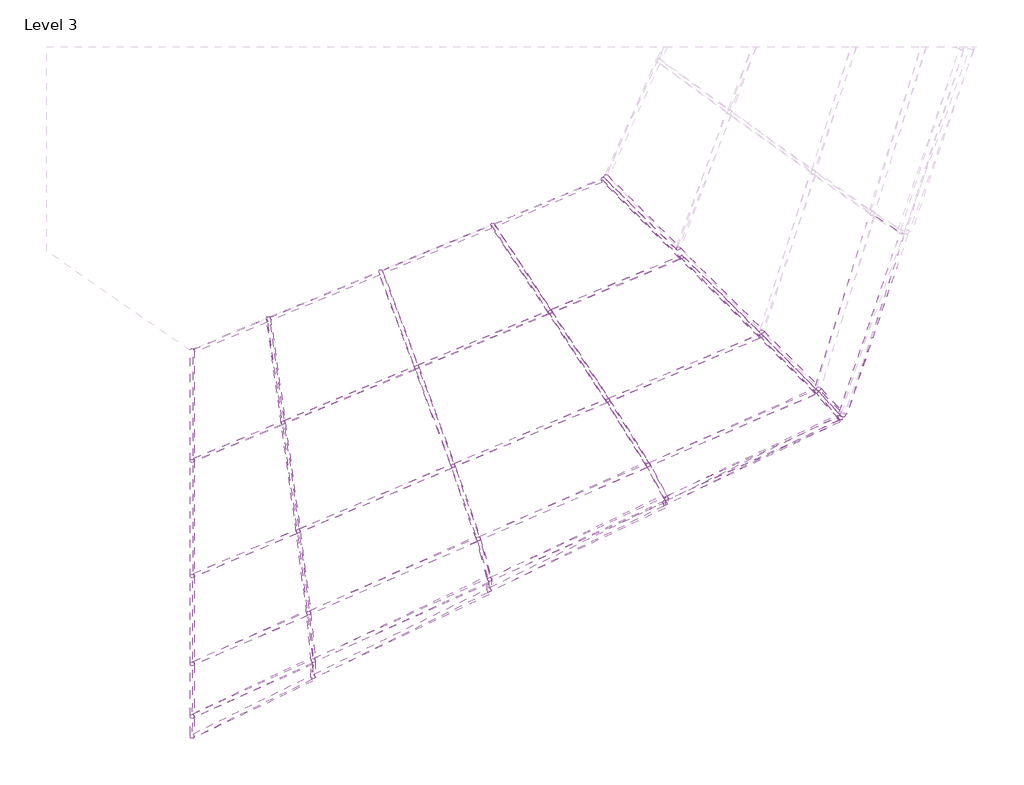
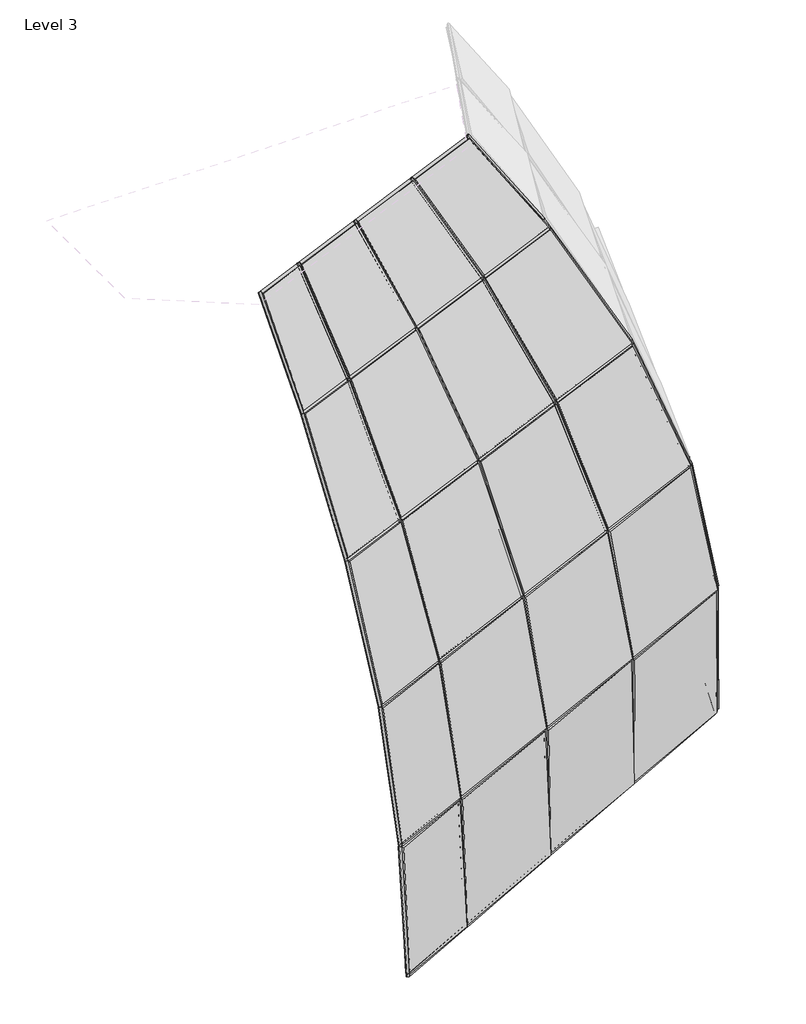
# One storey, part 1 of 2: 54 members, 22 plates.
"""IFC4 building model written with IfcOpenShell, lengths in millimetres."""

from ifc_helpers import new_model, si_unit, origin, place, context, project, spatial, transform, mapped, element, save
from components import member_51609e14, member_550a394c, member_153bd64a, member_1881728f, member_d718a34b, member_c775a8c0, member_529cba33, member_4012dee8, member_df40f607, member_b8b030e0, member_0225935b, member_153dbc30, member_5a8dcc5f, member_750c870f, member_c198bb08, member_25a058d1, member_daf9717a, member_f387274c, member_ab1f9ae6, member_44664120, member_632aa1b8, member_196592cd, member_b69ffe92, member_be079538, member_8f1bf7c9, member_76b62516, member_647eb9a3, member_b3db843a, member_d8d60749, member_e72a07f9, member_21f347eb, member_ffd43734, member_71e1ef4e, member_392e714e, member_e3ef78de, member_4ed57528, member_fef315e6, member_c3c220a6, member_70f3ef59, member_2e2546f8, member_24125101, member_7f8e0041, member_b4dc21fd, member_75c37333, member_c1d8b073, member_82034386, member_3b75e8cd, member_826e21f9, empty_system_panel_empty_9f1aaa04, empty_system_panel_empty_9aa10e1d, empty_system_panel_empty_32c5dcfe, empty_system_panel_empty_7a88da63, empty_system_panel_empty_5c7e0a77, empty_system_panel_empty_cd960515, empty_system_panel_empty_cb121b9c, empty_system_panel_empty_9545f0f2, empty_system_panel_empty_91059b44, empty_system_panel_empty_a0e2cc6e, empty_system_panel_empty_5f52704f, empty_system_panel_empty_acc5f44e, empty_system_panel_empty_cdbc88c9, empty_system_panel_empty_6c8ad9f7, empty_system_panel_empty_86a8a756, empty_system_panel_empty_f392819b, empty_system_panel_empty_272c744b, empty_system_panel_empty_c727257e, empty_system_panel_empty_250252ff, empty_system_panel_empty_4bd17fd3, empty_system_panel_empty_bc907498, empty_system_panel_empty_82868915

model = new_model("IFC4")

# Units and contexts
model_context = context("Model", 3, world=origin())
ifc_project = project(units=[si_unit("LENGTHUNIT", "METRE", prefix="MILLI")], contexts=[model_context])

# Site, building, storey
site = spatial("IfcSite", under=ifc_project)
building = spatial("IfcBuilding", under=site)
storey = spatial("IfcBuildingStorey", under=building, Name="Level 3", Elevation=6096.0)

# Members
placement = place(None, origin())
member_shape = member_51609e14(model_context)
element("IfcMember", 1, ObjectType="Circular Mullion : 2.5\" Circular", at=placement, inside=storey, context=model_context, shape_type="MappedRepresentation", body=[
    mapped(member_shape, transform((178600.8774719, 23302.984107, 22344.3209782), x_axis=(-0.243014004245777, 0.5828116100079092, 0.7754191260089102), y_axis=(0.29842209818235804, -0.7156948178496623, 0.6314468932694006), z_axis=(0.9229780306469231, 0.38485264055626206, 0.0))),
])
member_2_shape = member_550a394c(model_context)
element("IfcMember", 2, ObjectType="Circular Mullion : 2.5\" Circular", at=placement, inside=storey, context=model_context, shape_type="MappedRepresentation", body=[
    mapped(member_2_shape, transform((173376.7160017, 21124.6740392, 22344.3209782), x_axis=(-0.24254999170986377, 0.5816987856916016, 0.7763993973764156), y_axis=(0.29879935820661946, -0.7165995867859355, 0.6302412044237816), z_axis=(0.922978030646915, 0.3848526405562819, 0.0))),
])
member_3_shape = member_153bd64a(model_context)
element("IfcMember", 3, ObjectType="Circular Mullion : 2.5\" Circular", at=placement, inside=storey, context=model_context, shape_type="MappedRepresentation", body=[
    mapped(member_3_shape, transform((175127.8713426, 21854.8504189, 22344.3209782), x_axis=(-0.24268841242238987, 0.5820307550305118, 0.7761072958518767), y_axis=(0.29868694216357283, -0.7163299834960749, 0.6306008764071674), z_axis=(0.9229780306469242, 0.3848526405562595, 0.0))),
])
element("IfcMember", 4, ObjectType="Circular Mullion : 2.5\" Circular", at=placement, inside=storey, context=model_context, shape_type="MappedRepresentation", body=[
    mapped(member_3_shape, transform((176879.0266835, 22585.0267986, 22344.3209782), x_axis=(-0.24285131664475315, 0.5824214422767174, 0.7757631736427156), y_axis=(0.29855450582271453, -0.7160123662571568, 0.6310241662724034), z_axis=(0.9229780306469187, 0.38485264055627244, 0.0))),
])
member_4_shape = member_1881728f(model_context)
element("IfcMember", 5, ObjectType="Circular Mullion : 2.5\" Circular", at=placement, inside=storey, context=model_context, shape_type="MappedRepresentation", body=[
    mapped(member_4_shape, transform((172184.898253, 20627.7237409, 22344.3209782), x_axis=(-0.9544214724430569, -0.22417360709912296, 0.19704275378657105), y_axis=(0.2984621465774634, -0.7168617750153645, 0.6301028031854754), z_axis=(0.0, 0.6601934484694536, 0.7510956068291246))),
])
member_5_shape = member_d718a34b(model_context)
element("IfcMember", 6, ObjectType="Circular Mullion : 2.5\" Circular", at=placement, inside=storey, context=model_context, shape_type="MappedRepresentation", body=[
    mapped(member_5_shape, transform((172184.898253, 14895.2048204, 12024.508293), x_axis=(-0.903383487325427, -0.4265932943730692, 0.04377711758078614), y_axis=(0.4288336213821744, -0.8986640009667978, 0.09222113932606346), z_axis=(0.0, 0.10208415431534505, 0.9947757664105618))),
])
member_6_shape = member_c775a8c0(model_context)
element("IfcMember", 7, ObjectType="Circular Mullion : 2.5\" Circular", at=placement, inside=storey, context=model_context, shape_type="MappedRepresentation", body=[
    mapped(member_6_shape, transform((172184.898253, 15716.8068004, 15003.3897152), x_axis=(-0.9175135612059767, -0.3833894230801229, 0.10574221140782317), y_axis=(0.39770449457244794, -0.8844883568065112, 0.2439497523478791), z_axis=(0.0, 0.2658813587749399, 0.9640057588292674))),
])
member_7_shape = member_529cba33(model_context)
element("IfcMember", 8, ObjectType="Circular Mullion : 2.5\" Circular", at=placement, inside=storey, context=model_context, shape_type="MappedRepresentation", body=[
    mapped(member_7_shape, transform((172184.898253, 17091.7766134, 17804.3273603), x_axis=(-0.9327674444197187, -0.3235916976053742, 0.15884995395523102), y_axis=(0.3604787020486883, -0.8373193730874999, 0.41103694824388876), z_axis=(0.0, 0.44066390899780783, 0.8976721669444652))),
])
member_8_shape = member_4012dee8(model_context)
element("IfcMember", 9, ObjectType="Circular Mullion : 2.5\" Circular", at=placement, inside=storey, context=model_context, shape_type="MappedRepresentation", body=[
    mapped(member_8_shape, transform((172184.898253, 18895.5768678, 20373.6744808), x_axis=(-0.9457642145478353, -0.26587484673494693, 0.18665641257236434), y_axis=(0.32485389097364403, -0.774055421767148, 0.5434226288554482), z_axis=(0.0, 0.5745857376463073, 0.8184443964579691))),
])
member_9_shape = member_df40f607(model_context)
element("IfcMember", 10, ObjectType="Circular Mullion : 2.5\" Circular", at=placement, inside=storey, context=model_context, shape_type="MappedRepresentation", body=[
    mapped(member_9_shape, transform((174074.5566786, 15514.3392105, 8980.3473318), x_axis=(-0.003920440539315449, 0.007952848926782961, 0.9999606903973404), y_axis=(0.44213789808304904, -0.8969032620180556, 0.008866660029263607), z_axis=(0.8969385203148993, 0.44215527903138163, 0.0))),
])
member_10_shape = member_b8b030e0(model_context)
element("IfcMember", 11, ObjectType="Circular Mullion : 2.5\" Circular", at=placement, inside=storey, context=model_context, shape_type="MappedRepresentation", body=[
    mapped(member_10_shape, transform((176825.2676347, 16870.3311127, 8980.3473318), x_axis=(0.009119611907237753, -0.01849968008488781, 0.9997872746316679), y_axis=(0.44206122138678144, -0.8967477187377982, -0.020625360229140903), z_axis=(0.8969385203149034, 0.44215527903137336, 0.0))),
])
element("IfcMember", 12, ObjectType="Circular Mullion : 2.5\" Circular", at=placement, inside=storey, context=model_context, shape_type="MappedRepresentation", body=[
    mapped(member_10_shape, transform((179575.9785908, 18226.3230149, 8980.3473318), x_axis=(0.02213590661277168, -0.04490401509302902, 0.998746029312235), y_axis=(0.4416008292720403, -0.8958137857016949, -0.05006364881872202), z_axis=(0.896938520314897, 0.4421552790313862, 0.0))),
])
member_11_shape = member_0225935b(model_context)
element("IfcMember", 13, ObjectType="Circular Mullion : 2.5\" Circular", at=placement, inside=storey, context=model_context, shape_type="MappedRepresentation", body=[
    mapped(member_11_shape, transform((182298.2117488, 19568.276487, 8980.3473318), x_axis=(0.034961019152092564, -0.07092052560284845, 0.9968691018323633), y_axis=(0.4407709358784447, -0.8941302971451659, -0.07906955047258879), z_axis=(0.8969385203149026, 0.4421552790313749, 0.0))),
])
member_12_shape = member_153dbc30(model_context)
element("IfcMember", 14, ObjectType="Circular Mullion : 2.5\" Circular", at=placement, inside=storey, context=model_context, shape_type="MappedRepresentation", body=[
    mapped(member_12_shape, transform((174078.5767426, 15767.1746051, 12024.508293), x_axis=(-0.06127594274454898, 0.1330744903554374, 0.9892100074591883), y_axis=(0.41374009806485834, -0.8985296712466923, 0.14650447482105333), z_axis=(0.908330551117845, 0.4182530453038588, 0.0))),
])
member_13_shape = member_5a8dcc5f(model_context)
element("IfcMember", 15, ObjectType="Circular Mullion : 2.5\" Circular", at=placement, inside=storey, context=model_context, shape_type="MappedRepresentation", body=[
    mapped(member_13_shape, transform((176835.5713805, 17036.6699466, 12024.508293), x_axis=(-0.05172742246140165, 0.11233773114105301, 0.9923227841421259), y_axis=(0.4150420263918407, -0.9013571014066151, 0.12367494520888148), z_axis=(0.9083305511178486, 0.41825304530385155, 0.0))),
])
element("IfcMember", 16, ObjectType="Circular Mullion : 2.5\" Circular", at=placement, inside=storey, context=model_context, shape_type="MappedRepresentation", body=[
    mapped(member_13_shape, transform((179592.5660184, 18306.1652881, 12024.508293), x_axis=(-0.042096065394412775, 0.09142107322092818, 0.9949221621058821), y_axis=(0.41612922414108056, -0.9037181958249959, 0.10064736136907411), z_axis=(0.9083305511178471, 0.41825304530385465, 0.0))),
])
member_14_shape = member_750c870f(model_context)
element("IfcMember", 17, ObjectType="Circular Mullion : 2.5\" Circular", at=placement, inside=storey, context=model_context, shape_type="MappedRepresentation", body=[
    mapped(member_14_shape, transform((182320.7211613, 19562.3810954, 12024.508293), x_axis=(-0.032498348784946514, 0.0705774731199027, 0.9969767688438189), y_axis=(0.4169885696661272, -0.9055844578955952, 0.07770020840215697), z_axis=(0.9083305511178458, 0.41825304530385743, 0.0))),
])
member_15_shape = member_c198bb08(model_context)
element("IfcMember", 18, ObjectType="Circular Mullion : 2.5\" Circular", at=placement, inside=storey, context=model_context, shape_type="MappedRepresentation", body=[
    mapped(member_15_shape, transform((174005.6748395, 16511.8046658, 15003.3897152), x_axis=(-0.12841226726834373, 0.2941014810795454, 0.9471085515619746), y_axis=(0.3789818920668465, -0.8679788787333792, 0.32091337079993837), z_axis=(0.9164513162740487, 0.40014620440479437, 0.0))),
])
member_16_shape = member_25a058d1(model_context)
element("IfcMember", 19, ObjectType="Circular Mullion : 2.5\" Circular", at=placement, inside=storey, context=model_context, shape_type="MappedRepresentation", body=[
    mapped(member_16_shape, transform((176658.4939589, 17670.0936908, 15003.3897152), x_axis=(-0.12296552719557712, 0.2816268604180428, 0.9516122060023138), y_axis=(0.3807840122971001, -0.8721062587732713, 0.30730149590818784), z_axis=(0.9164513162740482, 0.40014620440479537, 0.0))),
])
element("IfcMember", 20, ObjectType="Circular Mullion : 2.5\" Circular", at=placement, inside=storey, context=model_context, shape_type="MappedRepresentation", body=[
    mapped(member_16_shape, transform((179311.3130783, 18828.3827158, 15003.3897152), x_axis=(-0.11744225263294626, 0.2689769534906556, 0.95595957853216), y_axis=(0.3825235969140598, -0.8760904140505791, 0.29349835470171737), z_axis=(0.9164513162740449, 0.4001462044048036, 0.0))),
])
member_17_shape = member_daf9717a(model_context)
element("IfcMember", 21, ObjectType="Circular Mullion : 2.5\" Circular", at=placement, inside=storey, context=model_context, shape_type="MappedRepresentation", body=[
    mapped(member_17_shape, transform((181935.0348684, 19973.9670988, 15003.3897152), x_axis=(-0.11190633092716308, 0.25629808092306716, 0.9600980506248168), y_axis=(0.3841795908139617, -0.879883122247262, 0.2796636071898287), z_axis=(0.9164513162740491, 0.4001462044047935, 0.0))),
])
member_18_shape = member_f387274c(model_context)
element("IfcMember", 22, ObjectType="Circular Mullion : 2.5\" Circular", at=placement, inside=storey, context=model_context, shape_type="MappedRepresentation", body=[
    mapped(member_18_shape, transform((173842.605915, 17791.6458832, 17804.3273603), x_axis=(-0.18686112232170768, 0.4425985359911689, 0.8770344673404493), y_axis=(0.34112047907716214, -0.807976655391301, 0.48042745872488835), z_axis=(0.9212598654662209, 0.38894763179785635, 0.0))),
])
member_19_shape = member_ab1f9ae6(model_context)
element("IfcMember", 23, ObjectType="Circular Mullion : 2.5\" Circular", at=placement, inside=storey, context=model_context, shape_type="MappedRepresentation", body=[
    mapped(member_19_shape, transform((176261.7943273, 18813.005479, 17804.3273603), x_axis=(-0.18463832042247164, 0.43733361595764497, 0.8801408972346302), y_axis=(0.34232871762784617, -0.8108384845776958, 0.47471254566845), z_axis=(0.921259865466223, 0.38894763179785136, 0.0))),
])
element("IfcMember", 24, ObjectType="Circular Mullion : 2.5\" Circular", at=placement, inside=storey, context=model_context, shape_type="MappedRepresentation", body=[
    mapped(member_19_shape, transform((178680.9827396, 19834.3650749, 17804.3273603), x_axis=(-0.18239191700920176, 0.43201279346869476, 0.8832316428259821), y_axis=(0.34353085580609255, -0.8136858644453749, 0.46893695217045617), z_axis=(0.9212598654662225, 0.3889476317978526, 0.0))),
])
member_20_shape = member_44664120(model_context)
element("IfcMember", 25, ObjectType="Circular Mullion : 2.5\" Circular", at=placement, inside=storey, context=model_context, shape_type="MappedRepresentation", body=[
    mapped(member_20_shape, transform((181070.9211512, 20843.3755834, 17804.3273603), x_axis=(-0.18014945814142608, 0.4267013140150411, 0.886268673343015), y_axis=(0.344712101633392, -0.8164837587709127, 0.4631715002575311), z_axis=(0.9212598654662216, 0.3889476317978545, 0.0))),
])
member_21_shape = member_632aa1b8(model_context)
element("IfcMember", 26, ObjectType="Circular Mullion : 2.5\" Circular", at=placement, inside=storey, context=model_context, shape_type="MappedRepresentation", body=[
    mapped(member_21_shape, transform((173608.8634104, 19487.8781344, 20373.6744808), x_axis=(-0.2284556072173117, 0.5492354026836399, 0.8038336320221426), y_axis=(0.308714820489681, -0.7421884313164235, 0.594854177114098), z_axis=(0.9233109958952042, 0.3840531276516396, 0.0))),
])
member_22_shape = member_196592cd(model_context)
element("IfcMember", 27, ObjectType="Circular Mullion : 2.5\" Circular", at=placement, inside=storey, context=model_context, shape_type="MappedRepresentation", body=[
    mapped(member_22_shape, transform((175692.9458355, 20354.7565505, 20373.6744808), x_axis=(-0.22809025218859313, 0.548357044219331, 0.8045367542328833), y_axis=(0.3089848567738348, -0.7428376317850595, 0.5939028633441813), z_axis=(0.9233109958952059, 0.38405312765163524, 0.0))),
])
element("IfcMember", 28, ObjectType="Circular Mullion : 2.5\" Circular", at=placement, inside=storey, context=model_context, shape_type="MappedRepresentation", body=[
    mapped(member_22_shape, transform((177777.0282606, 21221.6349665, 20373.6744808), x_axis=(-0.22772393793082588, 0.5474763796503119, 0.8052399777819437), y_axis=(0.30925493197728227, -0.7434869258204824, 0.5929490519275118), z_axis=(0.9233109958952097, 0.38405312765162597, 0.0))),
])
member_23_shape = member_b69ffe92(model_context)
element("IfcMember", 29, ObjectType="Circular Mullion : 2.5\" Circular", at=placement, inside=storey, context=model_context, shape_type="MappedRepresentation", body=[
    mapped(member_23_shape, transform((179831.7955615, 22076.3196957, 20373.6744808), x_axis=(-0.2273618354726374, 0.5466058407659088, 0.8059334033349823), y_axis=(0.3095212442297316, -0.744127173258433, 0.5920062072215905), z_axis=(0.9233109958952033, 0.3840531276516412, 0.0))),
])
member_24_shape = member_be079538(model_context)
element("IfcMember", 30, ObjectType="Circular Mullion : 2.5\" Circular", at=placement, inside=storey, context=model_context, shape_type="MappedRepresentation", body=[
    mapped(member_24_shape, transform((174103.0344766, 15528.3776406, 8980.3473318), x_axis=(0.8964389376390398, 0.44154767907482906, -0.03785337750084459), y_axis=(0.4431649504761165, -0.8934346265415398, 0.07334435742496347), z_axis=(-0.0014344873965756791, -0.0825240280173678, -0.996588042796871))),
])
member_25_shape = member_8f1bf7c9(model_context)
element("IfcMember", 31, ObjectType="Circular Mullion : 2.5\" Circular", at=placement, inside=storey, context=model_context, shape_type="MappedRepresentation", body=[
    mapped(member_25_shape, transform((176853.7454327, 16884.3695428, 8980.3473318), x_axis=(0.8963544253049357, 0.4425024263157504, -0.027209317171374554), y_axis=(0.4433243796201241, -0.8951211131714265, 0.0471347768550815), z_axis=(-0.0034983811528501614, -0.05431201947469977, -0.9985178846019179))),
])
member_26_shape = member_76b62516(model_context)
element("IfcMember", 32, ObjectType="Circular Mullion : 2.5\" Circular", at=placement, inside=storey, context=model_context, shape_type="MappedRepresentation", body=[
    mapped(member_26_shape, transform((179604.4563888, 18240.361445, 8980.3473318), x_axis=(0.8964483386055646, 0.44284113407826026, -0.016495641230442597), y_axis=(0.4431133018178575, -0.8962239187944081, 0.020815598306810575), z_axis=(-0.0055657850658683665, -0.025969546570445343, -0.9996472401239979))),
])
member_27_shape = member_647eb9a3(model_context)
element("IfcMember", 33, ObjectType="Circular Mullion : 2.5\" Circular", at=placement, inside=storey, context=model_context, shape_type="MappedRepresentation", body=[
    mapped(member_27_shape, transform((174107.4162375, 15780.4541393, 12024.508293), x_axis=(0.9103117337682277, 0.40626096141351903, -0.07927533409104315), y_axis=(0.41324700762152, -0.8810563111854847, 0.23014492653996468), z_axis=(0.023652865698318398, -0.2422639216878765, -0.9699220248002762))),
])
member_28_shape = member_b3db843a(model_context)
element("IfcMember", 34, ObjectType="Circular Mullion : 2.5\" Circular", at=placement, inside=storey, context=model_context, shape_type="MappedRepresentation", body=[
    mapped(member_28_shape, transform((176864.4108755, 17049.9494808, 12024.508293), x_axis=(0.9095660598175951, 0.4141663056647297, -0.03399785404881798), y_axis=(0.41149692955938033, -0.8862434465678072, 0.2127036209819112), z_axis=(0.05796429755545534, -0.20745800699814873, -0.976525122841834))),
])
member_29_shape = member_d8d60749(model_context)
element("IfcMember", 35, ObjectType="Circular Mullion : 2.5\" Circular", at=placement, inside=storey, context=model_context, shape_type="MappedRepresentation", body=[
    mapped(member_29_shape, transform((179621.4055134, 18319.4448223, 12024.508293), x_axis=(0.9077475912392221, 0.41933947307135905, 0.012194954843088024), y_axis=(0.4091881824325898, -0.8914351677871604, 0.19470072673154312), z_axis=(0.092516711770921, -0.1717490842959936, -0.980786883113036))),
])
member_30_shape = member_e72a07f9(model_context)
element("IfcMember", 36, ObjectType="Circular Mullion : 2.5\" Circular", at=placement, inside=storey, context=model_context, shape_type="MappedRepresentation", body=[
    mapped(member_30_shape, transform((174034.7721688, 16524.5093078, 15003.3897152), x_axis=(0.92519581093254, 0.36263546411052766, -0.11184020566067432), y_axis=(0.3757944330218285, -0.8344649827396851, 0.4030468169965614), z_axis=(0.05283233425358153, -0.4149261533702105, -0.9083198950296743))),
])
member_31_shape = member_21f347eb(model_context)
element("IfcMember", 37, ObjectType="Circular Mullion : 2.5\" Circular", at=placement, inside=storey, context=model_context, shape_type="MappedRepresentation", body=[
    mapped(member_31_shape, transform((176687.5912882, 17682.7983328, 15003.3897152), x_axis=(0.9198089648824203, 0.3912648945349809, -0.029381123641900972), y_axis=(0.3702125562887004, -0.8406319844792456, 0.3953233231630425), z_axis=(0.12997742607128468, -0.37449919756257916, -0.9180720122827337))),
])
member_32_shape = member_ffd43734(model_context)
element("IfcMember", 38, ObjectType="Circular Mullion : 2.5\" Circular", at=placement, inside=storey, context=model_context, shape_type="MappedRepresentation", body=[
    mapped(member_32_shape, transform((179340.4104076, 18841.0873578, 15003.3897152), x_axis=(0.9081253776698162, 0.4150292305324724, 0.05530855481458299), y_axis=(0.3638584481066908, -0.8476236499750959, 0.3861880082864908), z_axis=(0.20716015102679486, -0.33058264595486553, -0.9207604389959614))),
])
member_33_shape = member_71e1ef4e(model_context)
element("IfcMember", 39, ObjectType="Circular Mullion : 2.5\" Circular", at=placement, inside=storey, context=model_context, shape_type="MappedRepresentation", body=[
    mapped(member_33_shape, transform((173871.8559158, 17803.9949705, 17804.3273603), x_axis=(0.9385776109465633, 0.32102418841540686, -0.12655251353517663), y_axis=(0.3366659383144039, -0.7714778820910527, 0.5398869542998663), z_axis=(0.07568430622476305, -0.5493317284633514, -0.8321697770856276))),
])
member_34_shape = member_392e714e(model_context)
element("IfcMember", 40, ObjectType="Circular Mullion : 2.5\" Circular", at=placement, inside=storey, context=model_context, shape_type="MappedRepresentation", body=[
    mapped(member_34_shape, transform((176291.0443281, 18825.3545663, 17804.3273603), x_axis=(0.9255640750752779, 0.3779582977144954, -0.02187848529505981), y_axis=(0.3294700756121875, -0.7756618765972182, 0.5383290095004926), z_axis=(0.18649560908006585, -0.5054662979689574, -0.842450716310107))),
])
member_35_shape = member_e3ef78de(model_context)
element("IfcMember", 41, ObjectType="Circular Mullion : 2.5\" Circular", at=placement, inside=storey, context=model_context, shape_type="MappedRepresentation", body=[
    mapped(member_35_shape, transform((178710.2327404, 19846.7141622, 17804.3273603), x_axis=(0.8994412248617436, 0.42870057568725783, 0.08497822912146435), y_axis=(0.32180013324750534, -0.781197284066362, 0.5349537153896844), z_axis=(0.29571972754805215, -0.453813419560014, -0.840596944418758))),
])
member_36_shape = member_4ed57528(model_context)
element("IfcMember", 42, ObjectType="Circular Mullion : 2.5\" Circular", at=placement, inside=storey, context=model_context, shape_type="MappedRepresentation", body=[
    mapped(member_36_shape, transform((173638.1785345, 19500.0718212, 20373.6744808), x_axis=(0.9480629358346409, 0.290487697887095, -0.1295899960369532), y_axis=(0.30500952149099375, -0.7146285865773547, 0.6295039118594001), z_axis=(0.09025442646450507, -0.6363355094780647, -0.7661143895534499))),
])
member_37_shape = member_fef315e6(model_context)
element("IfcMember", 43, ObjectType="Circular Mullion : 2.5\" Circular", at=placement, inside=storey, context=model_context, shape_type="MappedRepresentation", body=[
    mapped(member_37_shape, transform((175722.2609596, 20366.9502373, 20373.6744808), x_axis=(0.9279865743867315, 0.3722145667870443, -0.017240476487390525), y_axis=(0.2989276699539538, -0.7160535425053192, 0.630800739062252), z_axis=(0.22244811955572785, -0.5905282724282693, -0.7757533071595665))),
])
member_38_shape = member_c3c220a6(model_context)
element("IfcMember", 44, ObjectType="Circular Mullion : 2.5\" Circular", at=placement, inside=storey, context=model_context, shape_type="MappedRepresentation", body=[
    mapped(member_38_shape, transform((177806.3433847, 21233.8286533, 20373.6744808), x_axis=(0.8894736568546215, 0.4467358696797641, 0.09624799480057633), y_axis=(0.29273747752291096, -0.7187292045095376, 0.630660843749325), z_axis=(0.35091506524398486, -0.5327808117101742, -0.7700670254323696))),
])
member_39_shape = member_70f3ef59(model_context)
element("IfcMember", 45, ObjectType="Circular Mullion : 2.5\" Circular", at=placement, inside=storey, context=model_context, shape_type="MappedRepresentation", body=[
    mapped(member_39_shape, transform((182355.1673449, 19596.3533472, 8980.3473318), x_axis=(0.9026883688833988, 0.430255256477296, -0.005841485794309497), y_axis=(0.43022722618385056, -0.9027039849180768, -0.005481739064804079), z_axis=(-0.007631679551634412, 0.00243513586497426, -0.9999679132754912))),
])
member_40_shape = member_2e2546f8(model_context)
element("IfcMember", 46, ObjectType="Circular Mullion : 2.5\" Circular", at=placement, inside=storey, context=model_context, shape_type="MappedRepresentation", body=[
    mapped(member_40_shape, transform((182378.4001513, 19588.9401638, 12024.508293), x_axis=(0.9060813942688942, 0.418907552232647, 0.05943878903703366), y_axis=(0.40357679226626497, -0.8978791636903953, 0.17589423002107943), z_axis=(0.12705227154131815, -0.13538637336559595, -0.9826129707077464))),
])
member_41_shape = member_24125101(model_context)
element("IfcMember", 47, ObjectType="Circular Mullion : 2.5\" Circular", at=placement, inside=storey, context=model_context, shape_type="MappedRepresentation", body=[
    mapped(member_41_shape, transform((181993.229527, 19999.3763828, 15003.3897152), x_axis=(0.8865154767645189, 0.44218008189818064, 0.13626108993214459), y_axis=(0.36640532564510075, -0.8507250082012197, 0.37684757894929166), z_axis=(0.2825552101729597, -0.28415442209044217, -0.9161980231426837))),
])
member_42_shape = member_7f8e0041(model_context)
element("IfcMember", 48, ObjectType="Circular Mullion : 2.5\" Circular", at=placement, inside=storey, context=model_context, shape_type="MappedRepresentation", body=[
    mapped(member_42_shape, transform((181129.4211526, 20868.073758, 17804.3273603), x_axis=(0.8565376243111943, 0.4832220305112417, 0.18121745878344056), y_axis=(0.3276645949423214, -0.7804778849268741, 0.5324379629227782), z_axis=(0.3987219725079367, -0.39667460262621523, -0.8268434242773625))),
])
member_43_shape = member_b4dc21fd(model_context)
element("IfcMember", 49, ObjectType="Circular Mullion : 2.5\" Circular", at=placement, inside=storey, context=model_context, shape_type="MappedRepresentation", body=[
    mapped(member_43_shape, transform((179890.4258098, 22100.7070693, 20373.6744808), x_axis=(0.8317053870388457, 0.5193986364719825, 0.19619175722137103), y_axis=(0.297961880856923, -0.7157122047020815, 0.6316444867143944), z_axis=(0.46849212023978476, -0.4668844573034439, -0.7500226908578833))),
])
member_44_shape = member_75c37333(model_context)
element("IfcMember", 50, ObjectType="Circular Mullion : 2.5\" Circular", at=placement, inside=storey, context=model_context, shape_type="MappedRepresentation", body=[
    mapped(member_44_shape, transform((178659.4865768, 23327.4222497, 22344.3209782), x_axis=(-0.5136576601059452, -0.8343029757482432, 0.20023574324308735), y_axis=(0.7173729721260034, -0.28958829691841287, 0.6336518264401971), z_axis=(-0.4706716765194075, 0.46912382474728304, 0.7472556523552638))),
])
member_45_shape = member_c1d8b073(model_context)
element("IfcMember", 51, ObjectType="Circular Mullion : 2.5\" Circular", at=placement, inside=storey, context=model_context, shape_type="MappedRepresentation", body=[
    mapped(member_45_shape, transform((182379.0186792, 19588.2125288, 12012.5776944), x_axis=(-0.32109564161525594, -0.9470467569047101, -0.000170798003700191), y_axis=(0.9470123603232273, -0.3210824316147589, -0.008582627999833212), z_axis=(0.008073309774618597, -0.002917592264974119, 0.9999631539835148))),
])
member_46_shape = member_82034386(model_context)
element("IfcMember", 52, ObjectType="Circular Mullion : 2.5\" Circular", at=placement, inside=storey, context=model_context, shape_type="MappedRepresentation", body=[
    mapped(member_46_shape, transform((181992.495521, 20000.12886, 15006.7679201), x_axis=(-0.3136177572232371, -0.9453159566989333, 0.08956363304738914), y_axis=(0.9410377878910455, -0.29682008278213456, 0.16231364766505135), z_axis=(-0.1268533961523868, 0.13518720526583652, 0.9826660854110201))),
])
member_47_shape = member_3b75e8cd(model_context)
element("IfcMember", 53, ObjectType="Circular Mullion : 2.5\" Circular", at=placement, inside=storey, context=model_context, shape_type="MappedRepresentation", body=[
    mapped(member_47_shape, transform((181103.7721344, 20893.6410349, 17868.1855233), x_axis=(-0.3586195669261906, -0.9169442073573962, 0.1749437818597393), y_axis=(0.8891560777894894, -0.2784722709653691, 0.36311797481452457), z_axis=(-0.2842419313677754, 0.28577353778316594, 0.915172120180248))),
])
member_48_shape = member_826e21f9(model_context)
element("IfcMember", 54, ObjectType="Circular Mullion : 2.5\" Circular", at=placement, inside=storey, context=model_context, shape_type="MappedRepresentation", body=[
    mapped(member_48_shape, transform((179793.7110692, 22196.9277701, 20543.5844877), x_axis=(-0.43870415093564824, -0.8735738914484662, 0.21073045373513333), y_axis=(0.8032480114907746, -0.2760649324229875, 0.5278075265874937), z_axis=(-0.40290358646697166, 0.4008201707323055, 0.8228073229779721))),
])

# Plates
empty_system_panel_empty_shape = empty_system_panel_empty_9f1aaa04(model_context)
element("IfcPlate", 55, ObjectType="Empty System Panel : Empty", at=placement, inside=storey, context=model_context, shape_type="MappedRepresentation", body=[
    mapped(empty_system_panel_empty_shape, transform((182872.4458355, 21055.0089783, 8999.7729576), x_axis=(0.3210972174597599, 0.9470462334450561, -9.30437098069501e-05), y_axis=(-0.9470276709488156, 0.321090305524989, -0.0062933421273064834), z_axis=(-0.005930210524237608, 0.0021088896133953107, 0.9999801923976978))),
])
empty_system_panel_empty_2_shape = empty_system_panel_empty_9aa10e1d(model_context)
element("IfcPlate", 56, ObjectType="Empty System Panel : Empty", at=placement, inside=storey, context=model_context, shape_type="MappedRepresentation", body=[
    mapped(empty_system_panel_empty_2_shape, transform((182865.660535, 21116.6132275, 12043.7688299), x_axis=(0.30039226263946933, 0.9538150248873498, -0.0011776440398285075), y_axis=(-0.9401351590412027, 0.29587514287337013, -0.16912652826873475), z_axis=(-0.16096698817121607, 0.0519114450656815, 0.9855936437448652))),
])
empty_system_panel_empty_3_shape = empty_system_panel_empty_32c5dcfe(model_context)
element("IfcPlate", 57, ObjectType="Empty System Panel : Empty", at=placement, inside=storey, context=model_context, shape_type="MappedRepresentation", body=[
    mapped(empty_system_panel_empty_3_shape, transform((173209.4991448, 15089.7640326, 9012.0681105), x_axis=(0.9026445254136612, 0.4303854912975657, 0.001090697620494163), y_axis=(-0.42881558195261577, 0.8995625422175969, -0.08309289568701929), z_axis=(-0.036743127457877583, 0.07453563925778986, 0.9965412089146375))),
])
empty_system_panel_empty_4_shape = empty_system_panel_empty_7a88da63(model_context)
element("IfcPlate", 58, ObjectType="Empty System Panel : Empty", at=placement, inside=storey, context=model_context, shape_type="MappedRepresentation", body=[
    mapped(empty_system_panel_empty_4_shape, transform((175515.2929331, 16226.1039297, 9012.0720905), x_axis=(0.9026629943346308, 0.43034739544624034, 0.0007986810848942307), y_axis=(-0.42950894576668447, 0.9010170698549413, -0.06074788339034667), z_axis=(-0.02686231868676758, 0.054491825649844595, 0.9981528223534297))),
])
empty_system_panel_empty_5_shape = empty_system_panel_empty_5c7e0a77(model_context)
element("IfcPlate", 59, ObjectType="Empty System Panel : Empty", at=placement, inside=storey, context=model_context, shape_type="MappedRepresentation", body=[
    mapped(empty_system_panel_empty_5_shape, transform((178251.6561259, 17574.3243929, 9012.0901672), x_axis=(0.9026774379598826, 0.43031760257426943, 0.0004515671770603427), y_axis=(-0.4300504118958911, 0.902152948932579, -0.034303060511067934), z_axis=(-0.015168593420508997, 0.03077040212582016, 0.9994113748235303))),
])
empty_system_panel_empty_6_shape = empty_system_panel_empty_cd960515(model_context)
element("IfcPlate", 60, ObjectType="Empty System Panel : Empty", at=placement, inside=storey, context=model_context, shape_type="MappedRepresentation", body=[
    mapped(empty_system_panel_empty_6_shape, transform((180973.6889964, 18915.712514, 9012.0956861), x_axis=(0.9026838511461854, 0.4303043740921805, 0.00010255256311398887), y_axis=(-0.430290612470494, 0.9026568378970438, -0.00778600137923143), z_axis=(-0.0034429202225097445, 0.006984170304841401, 0.9999696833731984))),
])
empty_system_panel_empty_7_shape = empty_system_panel_empty_cb121b9c(model_context)
element("IfcPlate", 61, ObjectType="Empty System Panel : Empty", at=placement, inside=storey, context=model_context, shape_type="MappedRepresentation", body=[
    mapped(empty_system_panel_empty_7_shape, transform((173270.0025921, 15401.764822, 12055.6594439), x_axis=(0.9121129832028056, 0.4099328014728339, 0.002236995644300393), y_axis=(-0.397696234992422, 0.8861835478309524, -0.23773183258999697), z_axis=(-0.09943646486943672, 0.2159486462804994, 0.9713282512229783))),
])
empty_system_panel_empty_8_shape = empty_system_panel_empty_9545f0f2(model_context)
element("IfcPlate", 62, ObjectType="Empty System Panel : Empty", at=placement, inside=storey, context=model_context, shape_type="MappedRepresentation", body=[
    mapped(empty_system_panel_empty_8_shape, transform((175531.2581444, 16443.3149234, 12055.575016), x_axis=(0.9121414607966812, 0.40987015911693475, 0.002099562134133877), y_axis=(-0.3991904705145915, 0.8895131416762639, -0.222291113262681), z_axis=(-0.09297808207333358, 0.20192281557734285, 0.9749780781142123))),
])
empty_system_panel_empty_9_shape = empty_system_panel_empty_91059b44(model_context)
element("IfcPlate", 63, ObjectType="Empty System Panel : Empty", at=placement, inside=storey, context=model_context, shape_type="MappedRepresentation", body=[
    mapped(empty_system_panel_empty_9_shape, transform((178240.5256596, 17690.723252, 12055.5920365), x_axis=(0.9121729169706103, 0.40980096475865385, 0.0019336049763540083), y_axis=(-0.4008345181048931, 0.8931765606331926, -0.20388065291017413), z_axis=(-0.0852775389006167, 0.185199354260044, 0.9789938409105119))),
])
empty_system_panel_empty_10_shape = empty_system_panel_empty_a0e2cc6e(model_context)
element("IfcPlate", 64, ObjectType="Empty System Panel : Empty", at=placement, inside=storey, context=model_context, shape_type="MappedRepresentation", body=[
    mapped(empty_system_panel_empty_10_shape, transform((180965.2114523, 18945.0578789, 12055.646375), x_axis=(0.9122019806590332, 0.4097370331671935, 0.001763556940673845), y_axis=(-0.4023475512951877, 0.896548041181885, -0.18525133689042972), z_axis=(-0.0774854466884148, 0.1682770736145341, 0.9826895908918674))),
])
empty_system_panel_empty_11_shape = empty_system_panel_empty_5f52704f(model_context)
element("IfcPlate", 65, ObjectType="Empty System Panel : Empty", at=placement, inside=storey, context=model_context, shape_type="MappedRepresentation", body=[
    mapped(empty_system_panel_empty_11_shape, transform((173287.0518188, 16211.1219525, 15032.8062161), x_axis=(0.9183720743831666, 0.3957121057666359, 0.0021592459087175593), y_axis=(-0.36047658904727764, 0.8388232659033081, -0.40796097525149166), z_axis=(-0.16324632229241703, 0.3738816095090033, 0.9129968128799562))),
])
empty_system_panel_empty_12_shape = empty_system_panel_empty_acc5f44e(model_context)
element("IfcPlate", 66, ObjectType="Empty System Panel : Empty", at=placement, inside=storey, context=model_context, shape_type="MappedRepresentation", body=[
    mapped(empty_system_panel_empty_12_shape, transform((175400.570675, 17134.4589558, 15032.5894764), x_axis=(0.9183865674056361, 0.39567864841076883, 0.002126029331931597), y_axis=(-0.36183399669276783, 0.8419819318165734, -0.40017819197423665), z_axis=(-0.16013204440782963, 0.36674900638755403, 0.9164348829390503))),
])
empty_system_panel_empty_13_shape = empty_system_panel_empty_cdbc88c9(model_context)
element("IfcPlate", 67, ObjectType="Empty System Panel : Empty", at=placement, inside=storey, context=model_context, shape_type="MappedRepresentation", body=[
    mapped(empty_system_panel_empty_13_shape, transform((178008.6248472, 18273.1404987, 15032.6125269), x_axis=(0.9184034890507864, 0.3956395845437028, 0.0020857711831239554), y_axis=(-0.3634124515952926, 0.8456549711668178, -0.3908952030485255), z_axis=(-0.15641745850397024, 0.3582415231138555, 0.9204328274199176))),
])
empty_system_panel_empty_14_shape = empty_system_panel_empty_6c8ad9f7(model_context)
element("IfcPlate", 68, ObjectType="Empty System Panel : Empty", at=placement, inside=storey, context=model_context, shape_type="MappedRepresentation", body=[
    mapped(empty_system_panel_empty_14_shape, transform((180565.3499074, 19389.7128338, 15032.5233943), x_axis=(0.9184202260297, 0.39560094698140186, 0.0020443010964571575), y_axis=(-0.36496696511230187, 0.8492722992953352, -0.381491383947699), z_axis=(-0.15265452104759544, 0.349623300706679, 0.9243701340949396))),
])
empty_system_panel_empty_15_shape = empty_system_panel_empty_86a8a756(model_context)
element("IfcPlate", 69, ObjectType="Empty System Panel : Empty", at=placement, inside=storey, context=model_context, shape_type="MappedRepresentation", body=[
    mapped(empty_system_panel_empty_15_shape, transform((173243.0141706, 17556.7469335, 17831.2687463), x_axis=(0.9219312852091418, 0.3873518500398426, 0.0011178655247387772), y_axis=(-0.3248536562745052, 0.7747455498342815, -0.5424384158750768), z_axis=(-0.210980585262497, 0.49972780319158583, 0.8400948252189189))),
])
empty_system_panel_empty_16_shape = empty_system_panel_empty_f392819b(model_context)
element("IfcPlate", 70, ObjectType="Empty System Panel : Empty", at=placement, inside=storey, context=model_context, shape_type="MappedRepresentation", body=[
    mapped(empty_system_panel_empty_16_shape, transform((175111.5546376, 18345.9166324, 17831.0965393), x_axis=(0.9219338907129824, 0.3873456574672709, 0.001114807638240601), y_axis=(-0.3254833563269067, 0.7762473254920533, -0.5399080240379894), z_axis=(-0.2099963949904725, 0.4973966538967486, 0.8417232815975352))),
])
empty_system_panel_empty_17_shape = empty_system_panel_empty_272c744b(model_context)
element("IfcPlate", 71, ObjectType="Empty System Panel : Empty", at=placement, inside=storey, context=model_context, shape_type="MappedRepresentation", body=[
    mapped(empty_system_panel_empty_17_shape, transform((177492.8973746, 19351.2722446, 17831.1116038), x_axis=(0.9219369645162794, 0.3873383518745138, 0.0011111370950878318), y_axis=(-0.32622467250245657, 0.7780152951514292, -0.5369075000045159), z_axis=(-0.2088293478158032, 0.4946323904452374, 0.8436403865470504))),
])
empty_system_panel_empty_18_shape = empty_system_panel_empty_c727257e(model_context)
element("IfcPlate", 72, ObjectType="Empty System Panel : Empty", at=placement, inside=storey, context=model_context, shape_type="MappedRepresentation", body=[
    mapped(empty_system_panel_empty_18_shape, transform((179761.0389831, 20309.0691131, 17830.9909361), x_axis=(0.9219400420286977, 0.3873310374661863, 0.0011073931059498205), y_axis=(-0.3269651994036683, 0.7797813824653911, -0.5338864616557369), z_axis=(-0.20765432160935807, 0.49184922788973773, 0.8455554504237))),
])
empty_system_panel_empty_19_shape = empty_system_panel_empty_250252ff(model_context)
element("IfcPlate", 73, ObjectType="Empty System Panel : Empty", at=placement, inside=storey, context=model_context, shape_type="MappedRepresentation", body=[
    mapped(empty_system_panel_empty_19_shape, transform((173109.5946285, 19301.9359679, 20398.2820318), x_axis=(0.9232193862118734, 0.384273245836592, -0.0001935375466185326), y_axis=(-0.29846214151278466, 0.7167401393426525, -0.6302411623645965), z_axis=(-0.24204610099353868, 0.5819086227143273, 0.7763994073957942))),
])
empty_system_panel_empty_20_shape = empty_system_panel_empty_4bd17fd3(model_context)
element("IfcPlate", 74, ObjectType="Empty System Panel : Empty", at=placement, inside=storey, context=model_context, shape_type="MappedRepresentation", body=[
    mapped(empty_system_panel_empty_20_shape, transform((174699.5854704, 19963.2583472, 20398.310215), x_axis=(0.9232194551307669, 0.38427308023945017, -0.00019357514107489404), y_axis=(-0.29834985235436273, 0.7164704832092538, -0.6306008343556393), z_axis=(-0.24218423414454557, 0.5822407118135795, 0.7761073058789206))),
])
empty_system_panel_empty_21_shape = empty_system_panel_empty_bc907498(model_context)
element("IfcPlate", 75, ObjectType="Empty System Panel : Empty", at=placement, inside=storey, context=model_context, shape_type="MappedRepresentation", body=[
    mapped(empty_system_panel_empty_21_shape, transform((176755.0568699, 20818.2425088, 20398.3052871), x_axis=(0.9232195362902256, 0.38427288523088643, -0.00019361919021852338), y_axis=(-0.2982175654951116, 0.7161528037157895, -0.6310241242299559), z_axis=(-0.24234679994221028, 0.5826315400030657, 0.7757631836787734))),
])
empty_system_panel_empty_22_shape = empty_system_panel_empty_82868915(model_context)
element("IfcPlate", 76, ObjectType="Empty System Panel : Empty", at=placement, inside=storey, context=model_context, shape_type="MappedRepresentation", body=[
    mapped(empty_system_panel_empty_22_shape, transform((178683.8022452, 21620.4793563, 20398.3269475), x_axis=(0.9232196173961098, 0.38427269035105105, -0.0001936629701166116), y_axis=(-0.2980853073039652, 0.715835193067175, -0.6314468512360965), z_axis=(-0.24250914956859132, 0.5830218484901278, 0.7754191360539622))),
])

save(model, "model.ifc")
